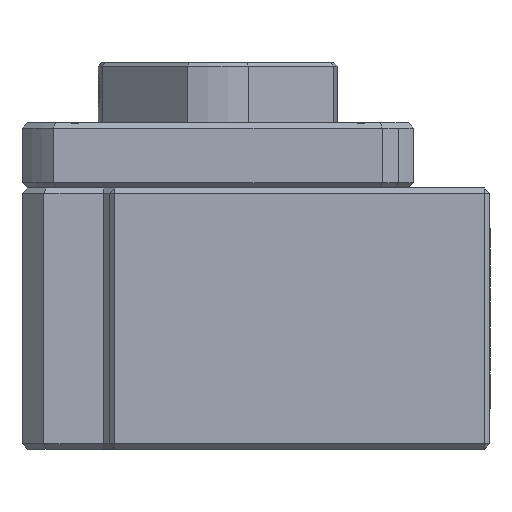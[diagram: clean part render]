
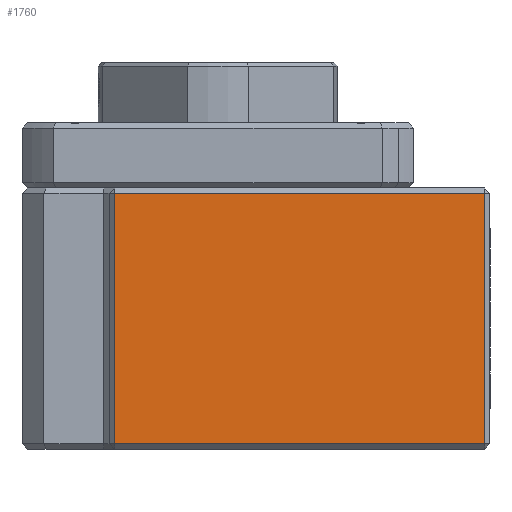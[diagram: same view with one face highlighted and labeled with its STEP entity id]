
A CAD part, left-side view. The second image highlights one B-rep face of the part: STEP entity #1760.
In plain terms, the highlighted planar face has unit normal (-1, 0, 0).
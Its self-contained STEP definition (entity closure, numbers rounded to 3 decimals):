
#526 = VERTEX_POINT ( 'NONE', #869 ) ;
#527 = VERTEX_POINT ( 'NONE', #870 ) ;
#528 = VERTEX_POINT ( 'NONE', #871 ) ;
#529 = VERTEX_POINT ( 'NONE', #872 ) ;
#869 = CARTESIAN_POINT ( 'NONE',  ( -35., 9.5, 11.5 ) ) ;
#870 = CARTESIAN_POINT ( 'NONE',  ( -35., 9.5, -11.5 ) ) ;
#871 = CARTESIAN_POINT ( 'NONE',  ( -35., -24.5, -11.5 ) ) ;
#872 = CARTESIAN_POINT ( 'NONE',  ( -35., -24.5, 11.5 ) ) ;
#1570 = EDGE_CURVE ( 'NONE', #527, #528, #9791, .T. ) ;
#1571 = EDGE_CURVE ( 'NONE', #526, #527, #9794, .T. ) ;
#1572 = EDGE_CURVE ( 'NONE', #528, #529, #9797, .T. ) ;
#1573 = EDGE_CURVE ( 'NONE', #529, #526, #9800, .T. ) ;
#1760 = ADVANCED_FACE ( 'NONE', ( #11718 ), #10434, .F. ) ;
#8537 = ORIENTED_EDGE ( 'NONE', *, *, #1571, .T. ) ;
#8538 = ORIENTED_EDGE ( 'NONE', *, *, #1572, .T. ) ;
#8539 = ORIENTED_EDGE ( 'NONE', *, *, #1570, .T. ) ;
#8540 = ORIENTED_EDGE ( 'NONE', *, *, #1573, .T. ) ;
#9791 = LINE ( 'NONE', #9792, #11542 ) ;
#9792 = CARTESIAN_POINT ( 'NONE',  ( -35., 10., -11.5 ) ) ;
#9793 = DIRECTION ( 'NONE',  ( 0., -1., 0. ) ) ;
#9794 = LINE ( 'NONE', #9795, #11543 ) ;
#9795 = CARTESIAN_POINT ( 'NONE',  ( -35., 9.5, 12. ) ) ;
#9796 = DIRECTION ( 'NONE',  ( 0., 0., -1. ) ) ;
#9797 = LINE ( 'NONE', #9798, #11544 ) ;
#9798 = CARTESIAN_POINT ( 'NONE',  ( -35., -24.5, 12. ) ) ;
#9799 = DIRECTION ( 'NONE',  ( 0., 0., 1. ) ) ;
#9800 = LINE ( 'NONE', #9801, #11545 ) ;
#9801 = CARTESIAN_POINT ( 'NONE',  ( -35., 10., 11.5 ) ) ;
#9802 = DIRECTION ( 'NONE',  ( 0., 1., 0. ) ) ;
#10434 = PLANE ( 'NONE',  #11721 ) ;
#10435 = CARTESIAN_POINT ( 'NONE',  ( -35., 10., 12. ) ) ;
#10436 = DIRECTION ( 'NONE',  ( 1., 0., 0. ) ) ;
#10437 = DIRECTION ( 'NONE',  ( 0., 1., 0. ) ) ;
#11542 = VECTOR ( 'NONE', #9793, 1000. ) ;
#11543 = VECTOR ( 'NONE', #9796, 1000. ) ;
#11544 = VECTOR ( 'NONE', #9799, 1000. ) ;
#11545 = VECTOR ( 'NONE', #9802, 1000. ) ;
#11718 = FACE_OUTER_BOUND ( 'NONE', #12331, .T. ) ;
#11721 = AXIS2_PLACEMENT_3D ( 'NONE', #10435, #10436, #10437 ) ;
#12331 = EDGE_LOOP ( 'NONE', ( #8537, #8539, #8538, #8540 ) ) ;
